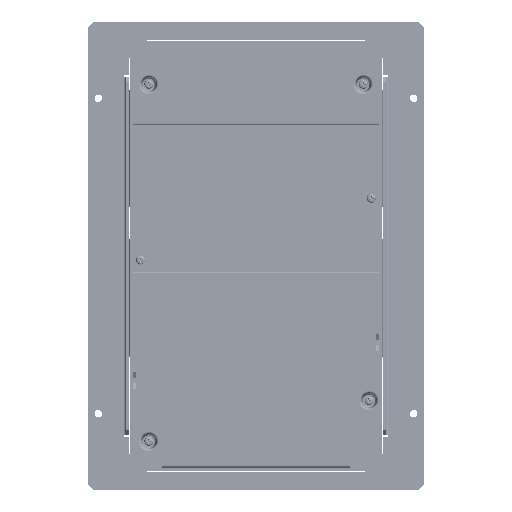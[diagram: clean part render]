
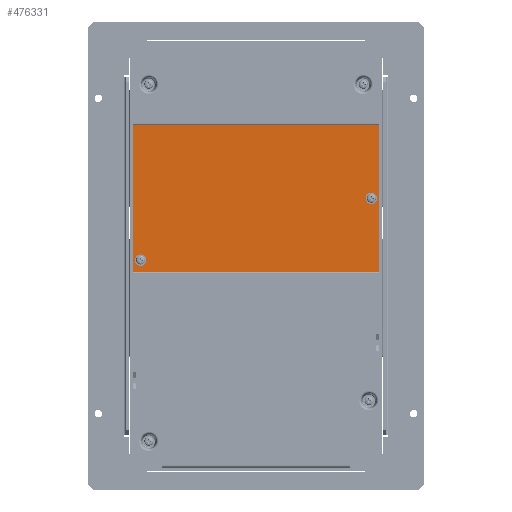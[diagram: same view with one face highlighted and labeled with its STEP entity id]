
A CAD part, front view. The second image highlights one B-rep face of the part: STEP entity #476331.
In plain terms, the highlighted planar face has unit normal (0, -1, 0) as drawn and (0, 0, 1) by its records, which use the part's own axes.
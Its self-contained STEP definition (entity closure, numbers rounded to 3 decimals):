
#473888=DIRECTION('',(1.,0.,0.));
#473889=VECTOR('',#473888,194.4);
#473890=CARTESIAN_POINT('',(-97.2,33.3,-5.3));
#473891=LINE('',#473890,#473889);
#473892=DIRECTION('',(0.,1.,0.));
#473893=VECTOR('',#473892,116.);
#473894=CARTESIAN_POINT('',(-97.2,33.3,-5.3));
#473895=LINE('',#473894,#473893);
#473896=DIRECTION('',(1.,0.,0.));
#473897=VECTOR('',#473896,194.4);
#473898=CARTESIAN_POINT('',(-97.2,149.3,-5.3));
#473899=LINE('',#473898,#473897);
#473900=DIRECTION('',(0.,1.,0.));
#473901=VECTOR('',#473900,116.);
#473902=CARTESIAN_POINT('',(97.2,33.3,-5.3));
#473903=LINE('',#473902,#473901);
#473904=CARTESIAN_POINT('',(-91.4,91.3,-5.3));
#473905=DIRECTION('',(0.,0.,1.));
#473906=DIRECTION('',(0.,1.,0.));
#473907=AXIS2_PLACEMENT_3D('',#473904,#473905,#473906);
#473909=CARTESIAN_POINT('',(-91.4,91.3,-5.3));
#473910=DIRECTION('',(0.,0.,1.));
#473911=DIRECTION('',(0.,-1.,0.));
#473912=AXIS2_PLACEMENT_3D('',#473909,#473910,#473911);
#473914=CARTESIAN_POINT('',(91.5,140.3,-5.3));
#473915=DIRECTION('',(0.,0.,1.));
#473916=DIRECTION('',(-1.,0.,0.));
#473917=AXIS2_PLACEMENT_3D('',#473914,#473915,#473916);
#473919=CARTESIAN_POINT('',(91.5,140.3,-5.3));
#473920=DIRECTION('',(0.,0.,1.));
#473921=DIRECTION('',(1.,0.,0.));
#473922=AXIS2_PLACEMENT_3D('',#473919,#473920,#473921);
#475933=CARTESIAN_POINT('',(97.2,33.3,-5.3));
#475935=VERTEX_POINT('',#475933);
#475937=CARTESIAN_POINT('',(-97.2,33.3,-5.3));
#475939=VERTEX_POINT('',#475937);
#475940=CARTESIAN_POINT('',(97.2,149.3,-5.3));
#475941=VERTEX_POINT('',#475940);
#475942=CARTESIAN_POINT('',(-97.2,149.3,-5.3));
#475943=VERTEX_POINT('',#475942);
#476072=CARTESIAN_POINT('',(-91.4,93.8,-5.3));
#476073=CARTESIAN_POINT('',(-91.4,88.8,-5.3));
#476074=VERTEX_POINT('',#476072);
#476075=VERTEX_POINT('',#476073);
#476200=CARTESIAN_POINT('',(89.,140.3,-5.3));
#476201=CARTESIAN_POINT('',(94.,140.3,-5.3));
#476202=VERTEX_POINT('',#476200);
#476203=VERTEX_POINT('',#476201);
#476304=CARTESIAN_POINT('',(100.,31.8,-5.3));
#476305=DIRECTION('',(0.,0.,1.));
#476306=DIRECTION('',(1.,0.,0.));
#476307=AXIS2_PLACEMENT_3D('',#476304,#476305,#476306);
#476308=PLANE('',#476307);
#476310=ORIENTED_EDGE('',*,*,#476309,.F.);
#476312=ORIENTED_EDGE('',*,*,#476311,.T.);
#476314=ORIENTED_EDGE('',*,*,#476313,.T.);
#476316=ORIENTED_EDGE('',*,*,#476315,.F.);
#476317=EDGE_LOOP('',(#476310,#476312,#476314,#476316));
#476318=FACE_OUTER_BOUND('',#476317,.F.);
#476320=ORIENTED_EDGE('',*,*,#476319,.T.);
#476322=ORIENTED_EDGE('',*,*,#476321,.T.);
#476323=EDGE_LOOP('',(#476320,#476322));
#476324=FACE_BOUND('',#476323,.F.);
#476326=ORIENTED_EDGE('',*,*,#476325,.T.);
#476328=ORIENTED_EDGE('',*,*,#476327,.T.);
#476329=EDGE_LOOP('',(#476326,#476328));
#476330=FACE_BOUND('',#476329,.F.);
#473908=CIRCLE('',#473907,2.5);
#473913=CIRCLE('',#473912,2.5);
#473918=CIRCLE('',#473917,2.5);
#473923=CIRCLE('',#473922,2.5);
#476309=EDGE_CURVE('',#475939,#475935,#473891,.T.);
#476311=EDGE_CURVE('',#475939,#475943,#473895,.T.);
#476313=EDGE_CURVE('',#475943,#475941,#473899,.T.);
#476315=EDGE_CURVE('',#475935,#475941,#473903,.T.);
#476319=EDGE_CURVE('',#476074,#476075,#473908,.T.);
#476321=EDGE_CURVE('',#476075,#476074,#473913,.T.);
#476325=EDGE_CURVE('',#476202,#476203,#473918,.T.);
#476327=EDGE_CURVE('',#476203,#476202,#473923,.T.);
#476331=ADVANCED_FACE('',(#476318,#476324,#476330),#476308,.T.);
